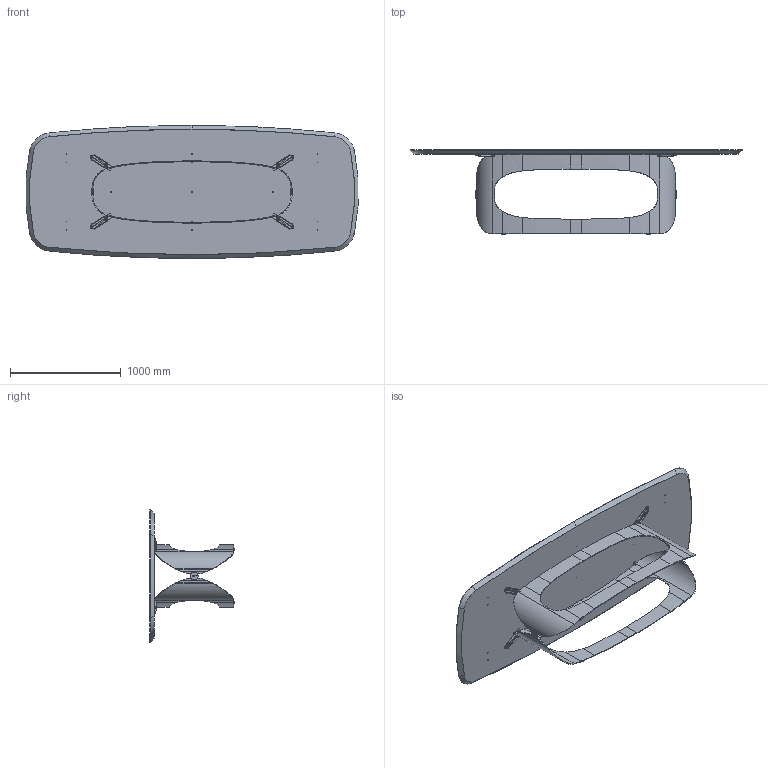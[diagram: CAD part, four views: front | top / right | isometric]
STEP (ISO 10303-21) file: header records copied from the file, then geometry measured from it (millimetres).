
FILE_DESCRIPTION (( 'STEP AP203' ), '1' );
FILE_NAME ('PO44W_Polifemo_300x120_.STEP', '2024-08-06T14:18:01', ( '' ), ( '' ), 'SwSTEP 2.0', 'SolidWorks 2022', '' );
FILE_SCHEMA (( 'CONFIG_CONTROL_DESIGN' ));
Length unit declared in the file: millimetre
Products named in the file (15): rondella M8_8X32; POL000000_03B-00-POLIFEMO FREGIO; POL000000_02-02-CILINDRO DI FISSAGGIO Ø12X15 M8; M8xXXmm_hex_M8X16mm; PO44W_Polifemo_300x120_; GRANO M8X35_barra; W4XCMXX-00-Piani Sagomati legno_3000 x 1200; Vite Legno 4xXX testa piana_S4.5x25; POLPIA000V01-00-POLIFEMO PIASTRA X FISSAGGIO TOP LEG-MAR; POL000000_03-01-POLIFEMO FREGIO COMPLETO; POL000000_03A-01-POLIFEMO FREGIO; POL000001-00-POLIFEMO BASE L300 GREZZO; nut_M8_M8; PVC profilo Polifemo 9x8; POL000001_01-00-MEZZA BASE POLIFEMO L300 GREZZO
Assembly tree (41 placements, depth 3):
  PO44W_Polifemo_300x120_
    POL000001-00-POLIFEMO BASE L300 GREZZO
      POL000001_01-00-MEZZA BASE POLIFEMO L300 GREZZO  x2
      POL000000_02-02-CILINDRO DI FISSAGGIO Ø12X15 M8  x4
    POL000000_03-01-POLIFEMO FREGIO COMPLETO  x2
      POL000000_03A-01-POLIFEMO FREGIO
      POL000000_03B-00-POLIFEMO FREGIO
    PVC profilo Polifemo 9x8  x4
    POLPIA000V01-00-POLIFEMO PIASTRA X FISSAGGIO TOP LEG-MAR  x4
    M8xXXmm_hex_M8X16mm  x4
    GRANO M8X35_barra  x4
    nut_M8_M8  x4
    rondella M8_8X32  x4
    Vite Legno 4xXX testa piana_S4.5x25  x4
    W4XCMXX-00-Piani Sagomati legno_3000 x 1200
Bounding box: 2991.72 x 759.97 x 1200 mm (x, y, z)
Volume: 132275263.3 mm3; surface area: 10186139.2 mm2
Topology: 41 solids, 41 shells, 1485 faces, 3634 edges, 2146 vertices
Faces by surface type: cylinder 489, plane 404, bspline 200, torus 189, cone 139, sphere 64
Entity records: 27649 total; most frequent: CARTESIAN_POINT 13762, ORIENTED_EDGE 2444, DIRECTION 2344, EDGE_CURVE 1222, AXIS2_PLACEMENT_3D 951, VERTEX_POINT 742, EDGE_LOOP 560, FACE_OUTER_BOUND 525
